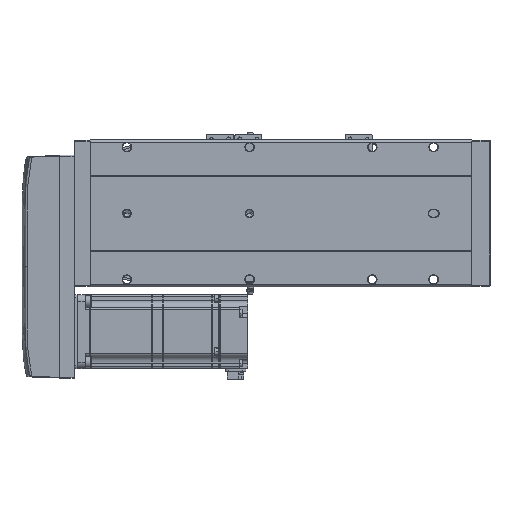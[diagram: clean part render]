
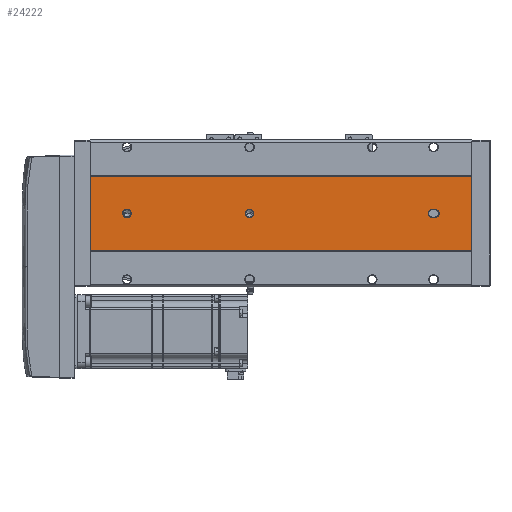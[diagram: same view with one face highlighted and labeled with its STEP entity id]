
A CAD part, front view. The second image highlights one B-rep face of the part: STEP entity #24222.
In plain terms, the highlighted planar face has unit normal (0, -1, 0).
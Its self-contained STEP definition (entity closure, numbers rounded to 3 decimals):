
#676 = CARTESIAN_POINT ( 'NONE',  ( -39.892, -52.848, 184.5 ) ) ;
#1050 = CARTESIAN_POINT ( 'NONE',  ( -69.892, -52.848, 311. ) ) ;
#2176 = VERTEX_POINT ( 'NONE', #1050 ) ;
#3017 = ORIENTED_EDGE ( 'NONE', *, *, #66419, .T. ) ;
#3045 = VERTEX_POINT ( 'NONE', #20824 ) ;
#3783 = DIRECTION ( 'NONE',  ( 0., 0., -1. ) ) ;
#4829 = VERTEX_POINT ( 'NONE', #65826 ) ;
#4833 = EDGE_CURVE ( 'NONE', #62628, #14603, #76104, .T. ) ;
#5015 = DIRECTION ( 'NONE',  ( 0., 1., 0. ) ) ;
#5264 = VERTEX_POINT ( 'NONE', #676 ) ;
#5562 = EDGE_CURVE ( 'NONE', #2176, #43428, #48633, .T. ) ;
#5692 = CIRCLE ( 'NONE', #18106, 3.5 ) ;
#5714 = FACE_BOUND ( 'NONE', #14633, .T. ) ;
#5814 = AXIS2_PLACEMENT_3D ( 'NONE', #46669, #5015, #10720 ) ;
#6521 = CARTESIAN_POINT ( 'NONE',  ( -39.892, -52.848, 284.5 ) ) ;
#7414 = DIRECTION ( 'NONE',  ( 0., 0., 1. ) ) ;
#7702 = DIRECTION ( 'NONE',  ( 0., 0., 1. ) ) ;
#7729 = CARTESIAN_POINT ( 'NONE',  ( -69.892, -52.848, 0. ) ) ;
#8895 = CIRCLE ( 'NONE', #28852, 3.5 ) ;
#9101 = CARTESIAN_POINT ( 'NONE',  ( -69.892, -52.848, 311. ) ) ;
#9686 = DIRECTION ( 'NONE',  ( 0., 0., 1. ) ) ;
#10231 = ORIENTED_EDGE ( 'NONE', *, *, #21761, .T. ) ;
#10486 = EDGE_CURVE ( 'NONE', #43428, #53709, #18600, .T. ) ;
#10720 = DIRECTION ( 'NONE',  ( 0., 0., 1. ) ) ;
#11704 = VECTOR ( 'NONE', #7702, 1000. ) ;
#12496 = DIRECTION ( 'NONE',  ( 0., 1., 0. ) ) ;
#13857 = EDGE_LOOP ( 'NONE', ( #44877, #22852, #72603, #57998 ) ) ;
#14603 = VERTEX_POINT ( 'NONE', #33251 ) ;
#14633 = EDGE_LOOP ( 'NONE', ( #43889, #44902 ) ) ;
#16361 = DIRECTION ( 'NONE',  ( 0., 0., 1. ) ) ;
#16774 = CARTESIAN_POINT ( 'NONE',  ( -39.892, -52.848, 30. ) ) ;
#16794 = FACE_BOUND ( 'NONE', #30331, .T. ) ;
#17029 = DIRECTION ( 'NONE',  ( 0., 1., 0. ) ) ;
#17863 = AXIS2_PLACEMENT_3D ( 'NONE', #16774, #17029, #34357 ) ;
#18106 = AXIS2_PLACEMENT_3D ( 'NONE', #48805, #30663, #7414 ) ;
#18530 = EDGE_CURVE ( 'NONE', #14603, #3045, #53069, .T. ) ;
#18600 = LINE ( 'NONE', #54091, #49853 ) ;
#19522 = FACE_OUTER_BOUND ( 'NONE', #13857, .T. ) ;
#20183 = CIRCLE ( 'NONE', #68324, 3.5 ) ;
#20413 = LINE ( 'NONE', #24705, #44272 ) ;
#20766 = EDGE_CURVE ( 'NONE', #28776, #5264, #5692, .T. ) ;
#20824 = CARTESIAN_POINT ( 'NONE',  ( -36.392, -52.848, 32. ) ) ;
#21761 = EDGE_CURVE ( 'NONE', #4829, #48230, #69952, .T. ) ;
#22059 = DIRECTION ( 'NONE',  ( 0., 1., 0. ) ) ;
#22852 = ORIENTED_EDGE ( 'NONE', *, *, #49802, .F. ) ;
#23544 = DIRECTION ( 'NONE',  ( 0., 1., 0. ) ) ;
#23593 = ORIENTED_EDGE ( 'NONE', *, *, #4833, .T. ) ;
#24222 = ADVANCED_FACE ( 'NONE', ( #32510, #5714, #16794, #19522 ), #25120, .F. ) ;
#24705 = CARTESIAN_POINT ( 'NONE',  ( -69.892, -52.848, 311. ) ) ;
#25033 = EDGE_LOOP ( 'NONE', ( #67164, #62153, #72121, #23593, #37883 ) ) ;
#25120 = PLANE ( 'NONE',  #50769 ) ;
#25411 = CARTESIAN_POINT ( 'NONE',  ( -39.892, -52.848, 181. ) ) ;
#26147 = DIRECTION ( 'NONE',  ( 0., 0., -1. ) ) ;
#28596 = CARTESIAN_POINT ( 'NONE',  ( -39.892, -52.848, 26.5 ) ) ;
#28776 = VERTEX_POINT ( 'NONE', #42780 ) ;
#28847 = VERTEX_POINT ( 'NONE', #33548 ) ;
#28852 = AXIS2_PLACEMENT_3D ( 'NONE', #46861, #23544, #47876 ) ;
#30331 = EDGE_LOOP ( 'NONE', ( #10231, #3017 ) ) ;
#30663 = DIRECTION ( 'NONE',  ( 0., 1., 0. ) ) ;
#30806 = EDGE_CURVE ( 'NONE', #3045, #68501, #72671, .T. ) ;
#31359 = DIRECTION ( 'NONE',  ( 0., 0., 1. ) ) ;
#31856 = DIRECTION ( 'NONE',  ( 0., 1., 0. ) ) ;
#32510 = FACE_BOUND ( 'NONE', #25033, .T. ) ;
#33251 = CARTESIAN_POINT ( 'NONE',  ( -43.392, -52.848, 32. ) ) ;
#33548 = CARTESIAN_POINT ( 'NONE',  ( -9.892, -52.848, 311. ) ) ;
#34357 = DIRECTION ( 'NONE',  ( 0., 0., 1. ) ) ;
#36814 = CIRCLE ( 'NONE', #17863, 3.5 ) ;
#37528 = EDGE_CURVE ( 'NONE', #5264, #28776, #20183, .T. ) ;
#37883 = ORIENTED_EDGE ( 'NONE', *, *, #18530, .T. ) ;
#38199 = CIRCLE ( 'NONE', #70066, 3.5 ) ;
#41158 = VECTOR ( 'NONE', #26147, 1000. ) ;
#41173 = EDGE_CURVE ( 'NONE', #68501, #56244, #38199, .T. ) ;
#41998 = DIRECTION ( 'NONE',  ( 1., 0., 0. ) ) ;
#42780 = CARTESIAN_POINT ( 'NONE',  ( -39.892, -52.848, 177.5 ) ) ;
#43428 = VERTEX_POINT ( 'NONE', #7729 ) ;
#43889 = ORIENTED_EDGE ( 'NONE', *, *, #20766, .T. ) ;
#44272 = VECTOR ( 'NONE', #71453, 1000. ) ;
#44877 = ORIENTED_EDGE ( 'NONE', *, *, #10486, .T. ) ;
#44902 = ORIENTED_EDGE ( 'NONE', *, *, #37528, .T. ) ;
#46669 = CARTESIAN_POINT ( 'NONE',  ( -39.892, -52.848, 281. ) ) ;
#46861 = CARTESIAN_POINT ( 'NONE',  ( -39.892, -52.848, 281. ) ) ;
#47876 = DIRECTION ( 'NONE',  ( 0., 0., 1. ) ) ;
#48230 = VERTEX_POINT ( 'NONE', #6521 ) ;
#48633 = LINE ( 'NONE', #9101, #41158 ) ;
#48700 = CARTESIAN_POINT ( 'NONE',  ( -69.892, -52.848, 311. ) ) ;
#48805 = CARTESIAN_POINT ( 'NONE',  ( -39.892, -52.848, 181. ) ) ;
#49802 = EDGE_CURVE ( 'NONE', #28847, #53709, #55622, .T. ) ;
#49853 = VECTOR ( 'NONE', #41998, 1000. ) ;
#50769 = AXIS2_PLACEMENT_3D ( 'NONE', #48700, #12496, #66172 ) ;
#52351 = CARTESIAN_POINT ( 'NONE',  ( -39.892, -52.848, 32. ) ) ;
#53069 = CIRCLE ( 'NONE', #54948, 3.5 ) ;
#53215 = CARTESIAN_POINT ( 'NONE',  ( -9.892, -52.848, 0. ) ) ;
#53709 = VERTEX_POINT ( 'NONE', #53215 ) ;
#54091 = CARTESIAN_POINT ( 'NONE',  ( -69.892, -52.848, 0. ) ) ;
#54948 = AXIS2_PLACEMENT_3D ( 'NONE', #52351, #22059, #16361 ) ;
#55622 = LINE ( 'NONE', #57338, #63007 ) ;
#56244 = VERTEX_POINT ( 'NONE', #28596 ) ;
#56501 = DIRECTION ( 'NONE',  ( 0., 1., 0. ) ) ;
#57023 = CARTESIAN_POINT ( 'NONE',  ( -39.892, -52.848, 30. ) ) ;
#57338 = CARTESIAN_POINT ( 'NONE',  ( -9.892, -52.848, 311. ) ) ;
#57700 = CARTESIAN_POINT ( 'NONE',  ( -36.392, -52.848, 30. ) ) ;
#57998 = ORIENTED_EDGE ( 'NONE', *, *, #5562, .T. ) ;
#58234 = EDGE_CURVE ( 'NONE', #2176, #28847, #20413, .T. ) ;
#60429 = CARTESIAN_POINT ( 'NONE',  ( -43.392, -52.848, 311. ) ) ;
#62153 = ORIENTED_EDGE ( 'NONE', *, *, #41173, .T. ) ;
#62628 = VERTEX_POINT ( 'NONE', #64132 ) ;
#63007 = VECTOR ( 'NONE', #3783, 1000. ) ;
#64132 = CARTESIAN_POINT ( 'NONE',  ( -43.392, -52.848, 30. ) ) ;
#65826 = CARTESIAN_POINT ( 'NONE',  ( -39.892, -52.848, 277.5 ) ) ;
#66172 = DIRECTION ( 'NONE',  ( 0., 0., 1. ) ) ;
#66419 = EDGE_CURVE ( 'NONE', #48230, #4829, #8895, .T. ) ;
#67164 = ORIENTED_EDGE ( 'NONE', *, *, #30806, .T. ) ;
#68324 = AXIS2_PLACEMENT_3D ( 'NONE', #25411, #31856, #31359 ) ;
#68501 = VERTEX_POINT ( 'NONE', #57700 ) ;
#69952 = CIRCLE ( 'NONE', #5814, 3.5 ) ;
#70066 = AXIS2_PLACEMENT_3D ( 'NONE', #57023, #56501, #9686 ) ;
#70415 = DIRECTION ( 'NONE',  ( 0., 0., -1. ) ) ;
#70679 = CARTESIAN_POINT ( 'NONE',  ( -36.392, -52.848, 311. ) ) ;
#71453 = DIRECTION ( 'NONE',  ( 1., 0., 0. ) ) ;
#72121 = ORIENTED_EDGE ( 'NONE', *, *, #75520, .T. ) ;
#72603 = ORIENTED_EDGE ( 'NONE', *, *, #58234, .F. ) ;
#72671 = LINE ( 'NONE', #70679, #73559 ) ;
#73559 = VECTOR ( 'NONE', #70415, 1000. ) ;
#75520 = EDGE_CURVE ( 'NONE', #56244, #62628, #36814, .T. ) ;
#76104 = LINE ( 'NONE', #60429, #11704 ) ;
